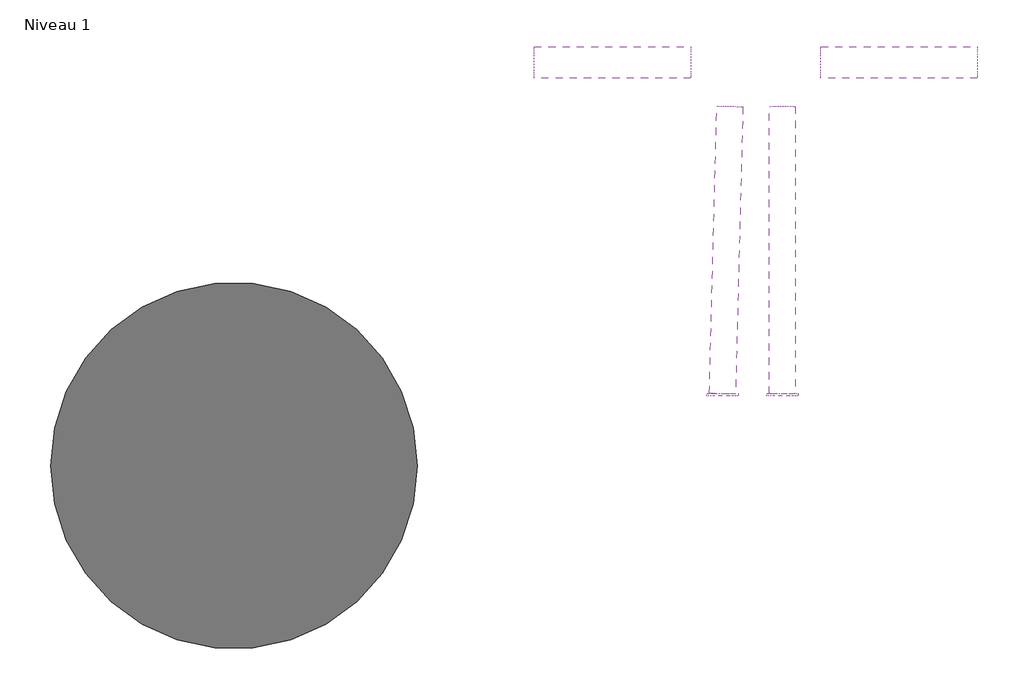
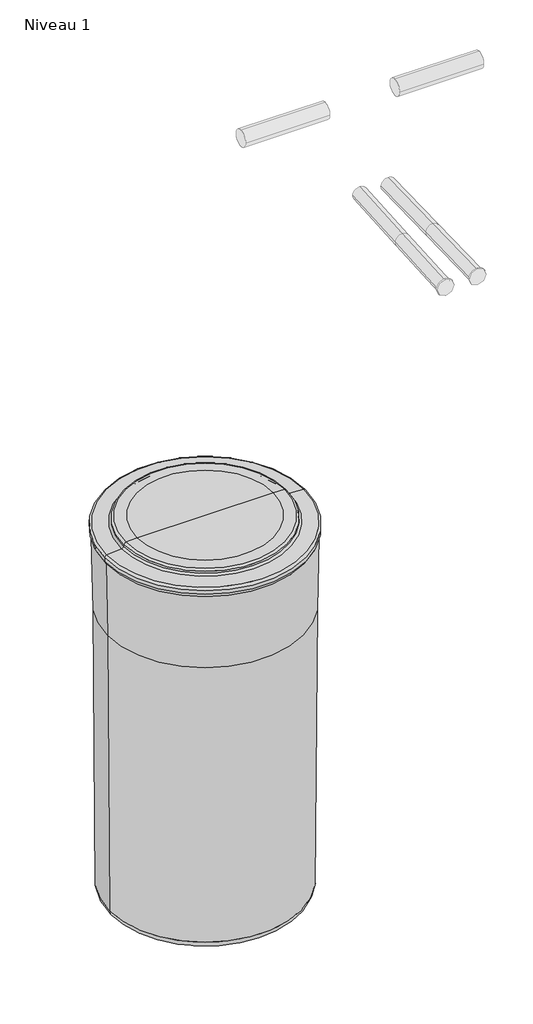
# One storey, incomplete: 6 pipe segments, 1 proxy.
"""IFC4 building model written with IfcOpenShell, lengths in millimetres."""

from ifc_helpers import new_model, si_unit, point, frame, frame_2d, origin, place, context, project, spatial, circle_curve, trimmed, segment, composite_curve, outline, extrude, transform, mapped, element, save
from ifc_brep_helpers import plane_surface, cylinder_surface, advanced_brep
from components import proxy_1400_x_720_mm_ac387591

model = new_model("IFC4")

# Units and contexts
model_context = context("Model", 3, world=origin())
ifc_project = project(units=[si_unit("LENGTHUNIT", "METRE", prefix="MILLI")], contexts=[model_context])

# Site, building, storey
site = spatial("IfcSite", under=ifc_project)
building = spatial("IfcBuilding", under=site)
storey = spatial("IfcBuildingStorey", under=building, Name="Niveau 1", Elevation=0.0)

# Proxy
placement = place(None, origin())
proxy_1400_x_720_mm_shape = proxy_1400_x_720_mm_ac387591(model_context)
element("IfcBuildingElementProxy", 1, Name="BWT_Bac à sel type 1 : 1400 x 720 mm", ObjectType="BWT_Bac à sel type 1 : 1400 x 720 mm", at=placement, inside=storey, context=model_context, shape_type="MappedRepresentation", body=[
    mapped(proxy_1400_x_720_mm_shape, transform((-2038.2618794, -10903.8189334, 0.0), x_axis=(1.0, 0.0, 0.0), y_axis=(0.0, 1.0, 0.0), z_axis=(0.0, 0.0, 1.0))),
])

# Pipe segments
element("IfcPipeSegment", 2, ObjectType="Souple - Circulaire", at=placement, inside=storey, context=model_context, shape_type="AdvancedBrep", body=[
    advanced_brep(
    [(-1062.9517577, -10215.7141748, 1862.3207297), (-1087.9275418, -10214.4587551, 1837.3280483), (-1112.9348158, -10214.4126747, 1862.3207297), (-1087.9590316, -10215.6680944, 1887.3134112), (-1070.1179724, -10490.9268412, 1855.6577564), (-1095.0937566, -10489.6714215, 1830.6650749), (-1120.1010305, -10489.625341, 1855.6577564), (-1095.1252463, -10490.8807608, 1880.6504378), (-1077.2841872, -10766.138943, 1848.6), (-1102.2923934, -10766.1286665, 1873.5917889), (-1127.2672452, -10764.8374402, 1848.6), (-1102.259039, -10764.8477167, 1823.6082111)],
    [
        (0, 1, circle_curve(frame((-1087.9432867, -10215.0634248, 1862.3207297), z_axis=(0.026022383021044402, 0.9993685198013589, 0.024194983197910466), x_axis=(0.9996611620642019, -0.02603000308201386, 0.0)), 25.0)),
        (1, 2, circle_curve(frame((-1087.9432867, -10215.0634248, 1862.3207297), z_axis=(0.026022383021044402, 0.9993685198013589, 0.024194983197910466), x_axis=(0.9996611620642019, -0.02603000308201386, 0.0)), 25.0)),
        (2, 3, circle_curve(frame((-1087.9432867, -10215.0634248, 1862.3207297), z_axis=(0.026022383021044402, 0.9993685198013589, 0.024194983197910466), x_axis=(0.9996611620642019, -0.02603000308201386, 0.0)), 25.0)),
        (3, 0, circle_curve(frame((-1087.9432867, -10215.0634248, 1862.3207297), z_axis=(0.026022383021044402, 0.9993685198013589, 0.024194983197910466), x_axis=(0.9996611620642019, -0.02603000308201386, 0.0)), 25.0)),
        (0, 4),
        (4, 5, circle_curve(frame((-1095.1095014, -10490.2760911, 1855.6577564), z_axis=(0.026022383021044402, 0.9993685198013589, 0.024194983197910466), x_axis=(0.9996611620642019, -0.02603000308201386, 0.0)), 25.0)),
        (5, 1),
        (5, 6, circle_curve(frame((-1095.1095014, -10490.2760911, 1855.6577564), z_axis=(0.026022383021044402, 0.9993685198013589, 0.024194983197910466), x_axis=(0.9996611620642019, -0.02603000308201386, 0.0)), 25.0)),
        (6, 2),
        (6, 7, circle_curve(frame((-1095.1095014, -10490.2760911, 1855.6577564), z_axis=(0.026022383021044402, 0.9993685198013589, 0.024194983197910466), x_axis=(0.9996611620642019, -0.02603000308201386, 0.0)), 25.0)),
        (7, 3),
        (7, 4, circle_curve(frame((-1095.1095014, -10490.2760911, 1855.6577564), z_axis=(0.026022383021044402, 0.9993685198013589, 0.024194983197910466), x_axis=(0.9996611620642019, -0.02603000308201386, 0.0)), 25.0)),
        (8, 9, circle_curve(frame((-1102.2757162, -10765.4881916, 1848.6), z_axis=(-0.02602150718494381, -0.9993328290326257, -0.025627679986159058), x_axis=(0.9996611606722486, -0.02603005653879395, -1.3325448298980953e-09)), 25.0)),
        (9, 10, circle_curve(frame((-1102.2757162, -10765.4881916, 1848.6), z_axis=(-0.02602150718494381, -0.9993328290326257, -0.025627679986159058), x_axis=(0.9996611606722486, -0.02603005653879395, -1.3325448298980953e-09)), 25.0)),
        (10, 11, circle_curve(frame((-1102.2757162, -10765.4881916, 1848.6), z_axis=(-0.02602150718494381, -0.9993328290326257, -0.025627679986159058), x_axis=(0.9996611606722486, -0.02603005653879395, -1.3325448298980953e-09)), 25.0)),
        (11, 8, circle_curve(frame((-1102.2757162, -10765.4881916, 1848.6), z_axis=(-0.02602150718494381, -0.9993328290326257, -0.025627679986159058), x_axis=(0.9996611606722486, -0.02603005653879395, -1.3325448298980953e-09)), 25.0)),
        (4, 8),
        (11, 5),
        (10, 6),
        (9, 7),
    ],
    [
        plane_surface(frame((-1087.9432867, -10214.4583453, 1837.3280532), z_axis=(0.026022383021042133, 0.9993685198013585, 0.02419498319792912), x_axis=(0.9996613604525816, -0.026014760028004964, -0.0006298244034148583))),
        cylinder_surface(frame((-1087.9432867, -10215.0634248, 1862.3207297), z_axis=(0.026022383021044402, 0.9993685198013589, 0.024194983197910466), x_axis=(0.9996611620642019, -0.02603000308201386, 0.0)), 25.0),
        plane_surface(frame((-1102.2757162, -10764.8472825, 1823.6082166), z_axis=(-0.026021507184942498, -0.999332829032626, -0.025627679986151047), x_axis=(0.9996613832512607, -0.026012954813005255, -0.0006670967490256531))),
        cylinder_surface(frame((-1095.1095014, -10490.2760911, 1855.6577564), z_axis=(0.02602150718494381, 0.9993328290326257, 0.025627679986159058), x_axis=(0.9996611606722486, -0.02603005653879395, -1.3325448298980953e-09)), 25.0),
    ],
    [
        (0, [[1, 2, 3, 4]]),
        (1, [[-1, 5, 6, 7]]),
        (1, [[-2, -7, 8, 9]]),
        (1, [[-3, -9, 10, 11]]),
        (1, [[-4, -11, 12, -5]]),
        (2, [[13, 14, 15, 16]]),
        (3, [[-6, 17, -16, 18]]),
        (3, [[-8, -18, -15, 19]]),
        (3, [[-10, -19, -14, 20]]),
        (3, [[-12, -20, -13, -17]]),
    ],
),
])
element("IfcPipeSegment", 3, ObjectType="Souple - Circulaire", at=placement, inside=storey, context=model_context, shape_type="AdvancedBrep", body=[
    advanced_brep(
    [(-962.3970412, -10215.0579143, 1862.3207297), (-987.3971739, -10214.4583392, 1837.3280534), (-1012.3970399, -10215.0689352, 1862.3207297), (-987.3969072, -10215.6685103, 1887.3134061), (-962.336379, -10490.2705805, 1855.6576895), (-987.3365117, -10489.6710055, 1830.6650132), (-1012.3363778, -10490.2816015, 1855.6576895), (-987.336245, -10490.8811766, 1880.6503659), (-962.2757168, -10765.4826811, 1848.6), (-987.2755749, -10766.1290945, 1873.5917835), (-1012.2757156, -10765.4937021, 1848.6), (-987.2758575, -10764.8472886, 1823.6082165)],
    [
        (0, 1, circle_curve(frame((-987.3970406, -10215.0634248, 1862.3207297), z_axis=(-0.00022035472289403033, 0.9997070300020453, 0.024203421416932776), x_axis=(0.9999999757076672, 0.0002204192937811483, 0.0)), 25.0)),
        (1, 2, circle_curve(frame((-987.3970406, -10215.0634248, 1862.3207297), z_axis=(-0.00022035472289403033, 0.9997070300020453, 0.024203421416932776), x_axis=(0.9999999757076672, 0.0002204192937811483, 0.0)), 25.0)),
        (2, 3, circle_curve(frame((-987.3970406, -10215.0634248, 1862.3207297), z_axis=(-0.00022035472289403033, 0.9997070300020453, 0.024203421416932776), x_axis=(0.9999999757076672, 0.0002204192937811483, 0.0)), 25.0)),
        (3, 0, circle_curve(frame((-987.3970406, -10215.0634248, 1862.3207297), z_axis=(-0.00022035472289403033, 0.9997070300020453, 0.024203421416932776), x_axis=(0.9999999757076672, 0.0002204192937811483, 0.0)), 25.0)),
        (0, 4),
        (4, 5, circle_curve(frame((-987.3363784, -10490.276091, 1855.6576895), z_axis=(-0.00022035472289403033, 0.9997070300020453, 0.024203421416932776), x_axis=(0.9999999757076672, 0.0002204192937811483, 0.0)), 25.0)),
        (5, 1),
        (5, 6, circle_curve(frame((-987.3363784, -10490.276091, 1855.6576895), z_axis=(-0.00022035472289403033, 0.9997070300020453, 0.024203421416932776), x_axis=(0.9999999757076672, 0.0002204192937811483, 0.0)), 25.0)),
        (6, 2),
        (6, 7, circle_curve(frame((-987.3363784, -10490.276091, 1855.6576895), z_axis=(-0.00022035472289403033, 0.9997070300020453, 0.024203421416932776), x_axis=(0.9999999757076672, 0.0002204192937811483, 0.0)), 25.0)),
        (7, 3),
        (7, 4, circle_curve(frame((-987.3363784, -10490.276091, 1855.6576895), z_axis=(-0.00022035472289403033, 0.9997070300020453, 0.024203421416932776), x_axis=(0.9999999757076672, 0.0002204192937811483, 0.0)), 25.0)),
        (8, 9, circle_curve(frame((-987.2757162, -10765.4881916, 1848.6), z_axis=(0.0002203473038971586, -0.9996713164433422, -0.025636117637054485), x_axis=(0.9999999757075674, 0.00022041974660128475, 1.128768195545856e-11)), 25.0)),
        (9, 10, circle_curve(frame((-987.2757162, -10765.4881916, 1848.6), z_axis=(0.0002203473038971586, -0.9996713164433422, -0.025636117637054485), x_axis=(0.9999999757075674, 0.00022041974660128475, 1.128768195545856e-11)), 25.0)),
        (10, 11, circle_curve(frame((-987.2757162, -10765.4881916, 1848.6), z_axis=(0.0002203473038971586, -0.9996713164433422, -0.025636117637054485), x_axis=(0.9999999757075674, 0.00022041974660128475, 1.128768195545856e-11)), 25.0)),
        (11, 8, circle_curve(frame((-987.2757162, -10765.4881916, 1848.6), z_axis=(0.0002203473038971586, -0.9996713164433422, -0.025636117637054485), x_axis=(0.9999999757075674, 0.00022041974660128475, 1.128768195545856e-11)), 25.0)),
        (4, 8),
        (11, 5),
        (10, 6),
        (9, 7),
    ],
    [
        plane_surface(frame((-987.3970406, -10214.4583392, 1837.3280534), z_axis=(-0.00022035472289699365, 0.999707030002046, 0.024203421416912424), x_axis=(0.9999999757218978, 0.00022029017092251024, 5.3333383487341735e-06))),
        cylinder_surface(frame((-987.3970406, -10215.0634248, 1862.3207297), z_axis=(-0.0002203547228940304, 0.9997070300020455, 0.024203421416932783), x_axis=(0.9999999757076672, 0.0002204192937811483, 0.0)), 25.0),
        plane_surface(frame((-987.2757162, -10764.8472886, 1823.6082165), z_axis=(0.00022034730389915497, -0.999671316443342, -0.025636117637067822), x_axis=(0.9999999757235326, 0.00022027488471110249, 5.648849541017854e-06))),
        cylinder_surface(frame((-987.3363784, -10490.276091, 1855.6576895), z_axis=(-0.0002203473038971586, 0.9996713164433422, 0.025636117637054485), x_axis=(0.9999999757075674, 0.00022041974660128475, 1.128768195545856e-11)), 25.0),
    ],
    [
        (0, [[1, 2, 3, 4]]),
        (1, [[-1, 5, 6, 7]]),
        (1, [[-2, -7, 8, 9]]),
        (1, [[-3, -9, 10, 11]]),
        (1, [[-4, -11, 12, -5]]),
        (2, [[13, 14, 15, 16]]),
        (3, [[-6, 17, -16, 18]]),
        (3, [[-8, -18, -15, 19]]),
        (3, [[-10, -19, -14, 20]]),
        (3, [[-12, -20, -13, -17]]),
    ],
),
])
element("IfcPipeSegment", 4, ObjectType="Standard", at=placement, inside=storey, context=model_context, shape_type="SweptSolid", body=[
    extrude(outline(composite_curve([segment(trimmed(circle_curve(frame_2d((0.0, 30.1625)), 30.1625), [point((30.1625, 30.1625))], [point((0.0, 0.0))], False, "CARTESIAN"), True, "CONTINUOUS"), segment(trimmed(circle_curve(frame_2d((0.0, 30.1625)), 30.1625), [point((0.0, 0.0))], [point((-30.1625, 30.1625))], False, "CARTESIAN"), True, "CONTINUOUS"), segment(trimmed(circle_curve(frame_2d((0.0, 30.1625)), 30.1625), [point((-30.1625, 30.1625))], [point((0.0, 60.3249999))], False, "CARTESIAN"), True, "CONTINUOUS"), segment(trimmed(circle_curve(frame_2d((0.0, 30.1625)), 30.1625), [point((0.0, 60.3249999))], [point((30.1625, 30.1625))], False, "CARTESIAN"), True, "CONTINUOUS")], self_intersect=False)), frame((-987.2757162, -10769.9044413, 1878.7499622), z_axis=(0.0, 0.9999958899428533, 0.002867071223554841), x_axis=(1.0, 0.0, 0.0)), (0.0, 0.0, 1.0), 4.3297895),
])
element("IfcPipeSegment", 5, ObjectType="Standard", at=placement, inside=storey, context=model_context, shape_type="SweptSolid", body=[
    extrude(outline(composite_curve([segment(trimmed(circle_curve(frame_2d((0.0, 30.1625)), 30.1625), [point((30.1625, 30.1625))], [point((0.0, 0.0))], False, "CARTESIAN"), True, "CONTINUOUS"), segment(trimmed(circle_curve(frame_2d((0.0, 30.1625)), 30.1625), [point((0.0, 0.0))], [point((-30.1625, 30.1625))], False, "CARTESIAN"), True, "CONTINUOUS"), segment(trimmed(circle_curve(frame_2d((0.0, 30.1625)), 30.1625), [point((-30.1625, 30.1625))], [point((0.0, 60.3249999))], False, "CARTESIAN"), True, "CONTINUOUS"), segment(trimmed(circle_curve(frame_2d((0.0, 30.1625)), 30.1625), [point((0.0, 60.3249999))], [point((30.1625, 30.1625))], False, "CARTESIAN"), True, "CONTINUOUS")], self_intersect=False)), frame((-1102.2757162, -10769.9044413, 1878.7499622), z_axis=(0.0, 0.999995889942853, 0.0028670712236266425), x_axis=(1.0, 0.0, 0.0)), (0.0, 0.0, 1.0), 4.3297895),
])
element("IfcPipeSegment", 6, ObjectType="Standard", at=placement, inside=storey, context=model_context, shape_type="SweptSolid", body=[
    extrude(outline(composite_curve([segment(trimmed(circle_curve(frame_2d((-10130.1692691, 2150.0)), 30.1625), [point((-10160.3317691, 2150.0))], [point((-10130.1692691, 2180.1625))], False, "CARTESIAN"), True, "CONTINUOUS"), segment(trimmed(circle_curve(frame_2d((-10130.1692691, 2150.0)), 30.1625), [point((-10130.1692691, 2180.1625))], [point((-10100.0067691, 2150.0))], False, "CARTESIAN"), True, "CONTINUOUS"), segment(trimmed(circle_curve(frame_2d((-10130.1692691, 2150.0)), 30.1625), [point((-10100.0067691, 2150.0))], [point((-10130.1692691, 2119.8375))], False, "CARTESIAN"), True, "CONTINUOUS"), segment(trimmed(circle_curve(frame_2d((-10130.1692691, 2150.0)), 30.1625), [point((-10130.1692691, 2119.8375))], [point((-10160.3317691, 2150.0))], False, "CARTESIAN"), True, "CONTINUOUS")], self_intersect=False)), frame((-913.5804721, 0.0, 0.0), z_axis=(1.0, 0.0, 0.0), x_axis=(0.0, 1.0, 0.0)), (0.0, 0.0, 1.0), 300.0),
])
element("IfcPipeSegment", 7, ObjectType="Standard", at=placement, inside=storey, context=model_context, shape_type="SweptSolid", body=[
    extrude(outline(composite_curve([segment(trimmed(circle_curve(frame_2d((-10130.1692691, 2150.0)), 30.1625), [point((-10100.0067691, 2150.0))], [point((-10130.1692691, 2119.8375))], False, "CARTESIAN"), True, "CONTINUOUS"), segment(trimmed(circle_curve(frame_2d((-10130.1692691, 2150.0)), 30.1625), [point((-10130.1692691, 2119.8375))], [point((-10160.3317691, 2150.0))], False, "CARTESIAN"), True, "CONTINUOUS"), segment(trimmed(circle_curve(frame_2d((-10130.1692691, 2150.0)), 30.1625), [point((-10160.3317691, 2150.0))], [point((-10130.1692691, 2180.1625))], False, "CARTESIAN"), True, "CONTINUOUS"), segment(trimmed(circle_curve(frame_2d((-10130.1692691, 2150.0)), 30.1625), [point((-10130.1692691, 2180.1625))], [point((-10100.0067691, 2150.0))], False, "CARTESIAN"), True, "CONTINUOUS")], self_intersect=False)), frame((-1462.9432867, 0.0, 0.0), z_axis=(1.0, 0.0, 0.0), x_axis=(0.0, 1.0, 0.0)), (0.0, 0.0, 1.0), 300.0),
])

save(model, "model.ifc")
